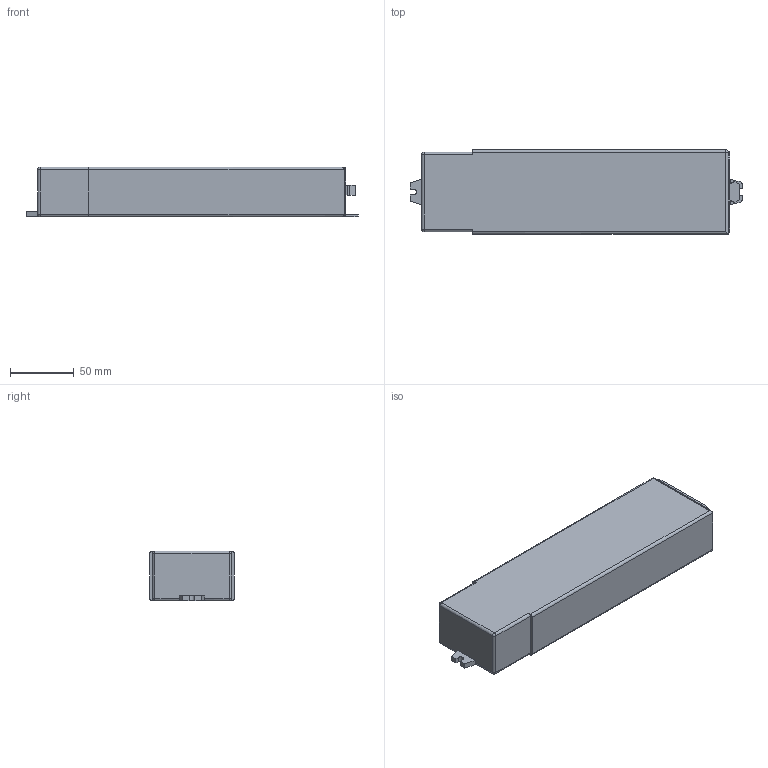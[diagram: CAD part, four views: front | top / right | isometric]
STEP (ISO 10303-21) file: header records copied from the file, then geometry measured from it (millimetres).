
FILE_DESCRIPTION (( 'STEP AP214' ), '1' );
FILE_NAME ('PowerPack-SYC2-ON-S-RM-24-XXXX-PP.STEP', '2024-10-21T10:33:51', ( '' ), ( '' ), 'SwSTEP 2.0', 'SolidWorks 2021', '' );
FILE_SCHEMA (( 'AUTOMOTIVE_DESIGN' ));
Length unit declared in the file: millimetre
Products named in the file (4): Platine-Akku-SV6001500; PowerPack-SYC2-ON-S-RM-24-XXXX-PP; EZ02471; Steuerung-SYC4-0n-S-RM-24-XXXX-Symbolisch
Assembly tree (3 placements, depth 2):
  PowerPack-SYC2-ON-S-RM-24-XXXX-PP
    Steuerung-SYC4-0n-S-RM-24-XXXX-Symbolisch
    Platine-Akku-SV6001500
    EZ02471
Bounding box: 259.72 x 66 x 39 mm (x, y, z)
Volume: 621132.8 mm3; surface area: 64576.7 mm2
Topology: 3 solids, 3 shells, 177 faces, 469 edges, 296 vertices
Faces by surface type: plane 96, cylinder 71, sphere 6, bspline 4
Entity records: 5886 total; most frequent: CARTESIAN_POINT 1018, DIRECTION 939, ORIENTED_EDGE 926, EDGE_CURVE 463, AXIS2_PLACEMENT_3D 315, VECTOR 309, LINE 309, VERTEX_POINT 296
